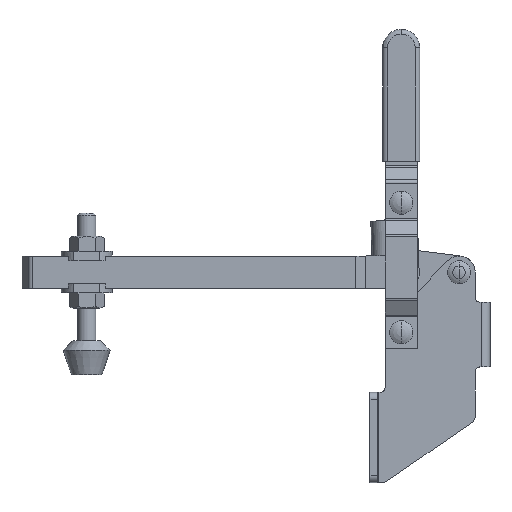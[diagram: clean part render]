
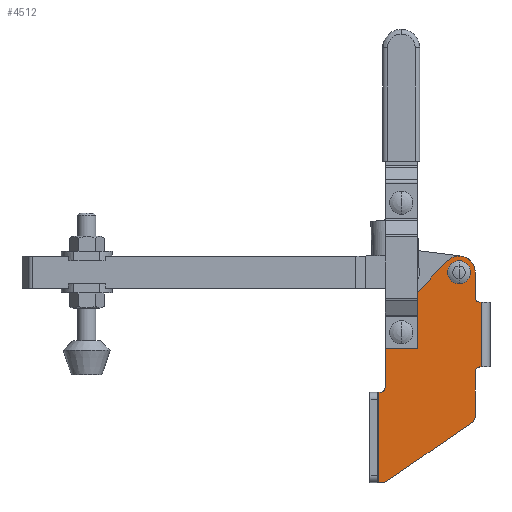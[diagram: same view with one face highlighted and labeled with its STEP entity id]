
A CAD part, front view. The second image highlights one B-rep face of the part: STEP entity #4512.
In plain terms, the highlighted planar face has unit normal (0, -1, 0).
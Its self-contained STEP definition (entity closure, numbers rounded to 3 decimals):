
#2732=CARTESIAN_POINT('Cartesian Point',(170.013,-6.4,-6.)) ;
#2735=CARTESIAN_POINT('Line Origine',(170.363,-6.4,-6.)) ;
#2739=CARTESIAN_POINT('Cartesian Point',(170.713,-6.4,-6.)) ;
#2813=CARTESIAN_POINT('Cartesian Point',(170.013,-6.4,-34.)) ;
#2883=CARTESIAN_POINT('Cartesian Point',(170.713,-6.4,-34.)) ;
#2886=CARTESIAN_POINT('Line Origine',(170.363,-6.4,-34.)) ;
#3786=CARTESIAN_POINT('Cartesian Point',(130.967,-6.4,-14.148)) ;
#3802=CARTESIAN_POINT('Cartesian Point',(129.013,-6.4,-19.)) ;
#3805=CARTESIAN_POINT('Axis2P3D Location',(136.013,-6.4,-19.)) ;
#3826=CARTESIAN_POINT('Cartesian Point',(155.967,-6.4,11.852)) ;
#3836=CARTESIAN_POINT('Line Origine',(143.467,-6.4,-1.148)) ;
#3857=CARTESIAN_POINT('Cartesian Point',(168.013,-6.4,7.)) ;
#3867=CARTESIAN_POINT('Axis2P3D Location',(161.013,-6.4,7.)) ;
#3888=CARTESIAN_POINT('Cartesian Point',(168.013,-6.4,-4.)) ;
#3898=CARTESIAN_POINT('Line Origine',(168.013,-6.4,1.5)) ;
#3920=CARTESIAN_POINT('Axis2P3D Location',(170.013,-6.4,-4.)) ;
#3941=CARTESIAN_POINT('Cartesian Point',(168.013,-6.4,-36.)) ;
#3951=CARTESIAN_POINT('Axis2P3D Location',(170.013,-6.4,-36.)) ;
#3972=CARTESIAN_POINT('Cartesian Point',(168.013,-6.4,-55.428)) ;
#3982=CARTESIAN_POINT('Line Origine',(168.013,-6.4,-45.714)) ;
#4003=CARTESIAN_POINT('Cartesian Point',(166.72,-6.4,-57.895)) ;
#4013=CARTESIAN_POINT('Axis2P3D Location',(165.013,-6.4,-55.428)) ;
#4034=CARTESIAN_POINT('Cartesian Point',(129.783,-6.4,-83.467)) ;
#4044=CARTESIAN_POINT('Line Origine',(148.252,-6.4,-70.681)) ;
#4065=CARTESIAN_POINT('Cartesian Point',(128.076,-6.4,-84.)) ;
#4075=CARTESIAN_POINT('Axis2P3D Location',(128.076,-6.4,-81.)) ;
#4120=CARTESIAN_POINT('Line Origine',(127.144,-6.4,-84.)) ;
#4124=CARTESIAN_POINT('Cartesian Point',(126.213,-6.4,-84.)) ;
#4247=CARTESIAN_POINT('Cartesian Point',(126.213,-6.4,-45.)) ;
#4250=CARTESIAN_POINT('Line Origine',(126.613,-6.4,-45.)) ;
#4254=CARTESIAN_POINT('Cartesian Point',(127.013,-6.4,-45.)) ;
#4296=CARTESIAN_POINT('Cartesian Point',(129.013,-6.4,-43.)) ;
#4306=CARTESIAN_POINT('Axis2P3D Location',(127.013,-6.4,-43.)) ;
#4328=CARTESIAN_POINT('Line Origine',(129.013,-6.4,-31.)) ;
#4434=CARTESIAN_POINT('Line Origine',(126.213,-6.4,-9.)) ;
#4446=CARTESIAN_POINT('Axis2P3D Location',(170.713,-6.4,66.)) ;
#4451=CARTESIAN_POINT('Line Origine',(170.713,-6.4,-20.)) ;
#4476=CARTESIAN_POINT('Axis2P3D Location',(136.013,-6.4,-19.)) ;
#4480=CARTESIAN_POINT('Cartesian Point',(136.013,-6.4,-15.8)) ;
#4482=CARTESIAN_POINT('Cartesian Point',(136.013,-6.4,-22.2)) ;
#4485=CARTESIAN_POINT('Axis2P3D Location',(136.013,-6.4,-19.)) ;
#4494=CARTESIAN_POINT('Axis2P3D Location',(161.013,-6.4,7.)) ;
#4498=CARTESIAN_POINT('Cartesian Point',(161.013,-6.4,10.2)) ;
#4500=CARTESIAN_POINT('Cartesian Point',(161.013,-6.4,3.8)) ;
#4503=CARTESIAN_POINT('Axis2P3D Location',(161.013,-6.4,7.)) ;
#2736=DIRECTION('Vector Direction',(1.,0.,0.)) ;
#2887=DIRECTION('Vector Direction',(1.,0.,0.)) ;
#3806=DIRECTION('Axis2P3D Direction',(0.,-1.,0.)) ;
#3837=DIRECTION('Vector Direction',(0.693,0.,0.721)) ;
#3868=DIRECTION('Axis2P3D Direction',(0.,-1.,0.)) ;
#3899=DIRECTION('Vector Direction',(0.,0.,1.)) ;
#3921=DIRECTION('Axis2P3D Direction',(0.,-1.,0.)) ;
#3952=DIRECTION('Axis2P3D Direction',(0.,-1.,0.)) ;
#3983=DIRECTION('Vector Direction',(0.,0.,1.)) ;
#4014=DIRECTION('Axis2P3D Direction',(0.,-1.,0.)) ;
#4045=DIRECTION('Vector Direction',(0.822,0.,0.569)) ;
#4076=DIRECTION('Axis2P3D Direction',(0.,-1.,0.)) ;
#4121=DIRECTION('Vector Direction',(1.,0.,0.)) ;
#4251=DIRECTION('Vector Direction',(1.,0.,0.)) ;
#4307=DIRECTION('Axis2P3D Direction',(0.,-1.,0.)) ;
#4329=DIRECTION('Vector Direction',(0.,0.,1.)) ;
#4435=DIRECTION('Vector Direction',(0.,0.,1.)) ;
#4447=DIRECTION('Axis2P3D Direction',(0.,-1.,0.)) ;
#4448=DIRECTION('Axis2P3D XDirection',(0.,0.,1.)) ;
#4452=DIRECTION('Vector Direction',(0.,0.,-1.)) ;
#4477=DIRECTION('Axis2P3D Direction',(0.,-1.,0.)) ;
#4486=DIRECTION('Axis2P3D Direction',(0.,-1.,0.)) ;
#4495=DIRECTION('Axis2P3D Direction',(0.,-1.,0.)) ;
#4504=DIRECTION('Axis2P3D Direction',(0.,-1.,0.)) ;
#3807=AXIS2_PLACEMENT_3D('Circle Axis2P3D',#3805,#3806,$) ;
#3869=AXIS2_PLACEMENT_3D('Circle Axis2P3D',#3867,#3868,$) ;
#3922=AXIS2_PLACEMENT_3D('Circle Axis2P3D',#3920,#3921,$) ;
#3953=AXIS2_PLACEMENT_3D('Circle Axis2P3D',#3951,#3952,$) ;
#4015=AXIS2_PLACEMENT_3D('Circle Axis2P3D',#4013,#4014,$) ;
#4077=AXIS2_PLACEMENT_3D('Circle Axis2P3D',#4075,#4076,$) ;
#4308=AXIS2_PLACEMENT_3D('Circle Axis2P3D',#4306,#4307,$) ;
#4449=AXIS2_PLACEMENT_3D('Plane Axis2P3D',#4446,#4447,#4448) ;
#4478=AXIS2_PLACEMENT_3D('Circle Axis2P3D',#4476,#4477,$) ;
#4487=AXIS2_PLACEMENT_3D('Circle Axis2P3D',#4485,#4486,$) ;
#4496=AXIS2_PLACEMENT_3D('Circle Axis2P3D',#4494,#4495,$) ;
#4505=AXIS2_PLACEMENT_3D('Circle Axis2P3D',#4503,#4504,$) ;
#4457=ORIENTED_EDGE('Oriented Edge',*,*,#4438,.T.) ;
#4458=ORIENTED_EDGE('Oriented Edge',*,*,#4126,.T.) ;
#4459=ORIENTED_EDGE('Oriented Edge',*,*,#4079,.T.) ;
#4460=ORIENTED_EDGE('Oriented Edge',*,*,#4048,.T.) ;
#4461=ORIENTED_EDGE('Oriented Edge',*,*,#4017,.T.) ;
#4462=ORIENTED_EDGE('Oriented Edge',*,*,#3986,.T.) ;
#4463=ORIENTED_EDGE('Oriented Edge',*,*,#3955,.F.) ;
#4464=ORIENTED_EDGE('Oriented Edge',*,*,#2890,.T.) ;
#4465=ORIENTED_EDGE('Oriented Edge',*,*,#4455,.F.) ;
#4466=ORIENTED_EDGE('Oriented Edge',*,*,#2741,.F.) ;
#4467=ORIENTED_EDGE('Oriented Edge',*,*,#3924,.F.) ;
#4468=ORIENTED_EDGE('Oriented Edge',*,*,#3902,.T.) ;
#4469=ORIENTED_EDGE('Oriented Edge',*,*,#3871,.T.) ;
#4470=ORIENTED_EDGE('Oriented Edge',*,*,#3840,.F.) ;
#4471=ORIENTED_EDGE('Oriented Edge',*,*,#3809,.T.) ;
#4472=ORIENTED_EDGE('Oriented Edge',*,*,#4332,.F.) ;
#4473=ORIENTED_EDGE('Oriented Edge',*,*,#4310,.F.) ;
#4474=ORIENTED_EDGE('Oriented Edge',*,*,#4256,.F.) ;
#4491=ORIENTED_EDGE('Oriented Edge',*,*,#4484,.F.) ;
#4492=ORIENTED_EDGE('Oriented Edge',*,*,#4489,.F.) ;
#4509=ORIENTED_EDGE('Oriented Edge',*,*,#4502,.F.) ;
#4510=ORIENTED_EDGE('Oriented Edge',*,*,#4507,.F.) ;
#4493=FACE_BOUND('Face Bound',#4490,.T.) ;
#4511=FACE_BOUND('Face Bound',#4508,.T.) ;
#2737=VECTOR('Line Direction',#2736,1.) ;
#2888=VECTOR('Line Direction',#2887,1.) ;
#3838=VECTOR('Line Direction',#3837,1.) ;
#3900=VECTOR('Line Direction',#3899,1.) ;
#3984=VECTOR('Line Direction',#3983,1.) ;
#4046=VECTOR('Line Direction',#4045,1.) ;
#4122=VECTOR('Line Direction',#4121,1.) ;
#4252=VECTOR('Line Direction',#4251,1.) ;
#4330=VECTOR('Line Direction',#4329,1.) ;
#4436=VECTOR('Line Direction',#4435,1.) ;
#4453=VECTOR('Line Direction',#4452,1.) ;
#4512=ADVANCED_FACE('',(#4475,#4493,#4511),#4450,.T.) ;
#3808=CIRCLE('generated circle',#3807,7.) ;
#3870=CIRCLE('generated circle',#3869,7.) ;
#3923=CIRCLE('generated circle',#3922,2.) ;
#3954=CIRCLE('generated circle',#3953,2.) ;
#4016=CIRCLE('generated circle',#4015,3.) ;
#4078=CIRCLE('generated circle',#4077,3.) ;
#4309=CIRCLE('generated circle',#4308,2.) ;
#4479=CIRCLE('generated circle',#4478,3.2) ;
#4488=CIRCLE('generated circle',#4487,3.2) ;
#4497=CIRCLE('generated circle',#4496,3.2) ;
#4506=CIRCLE('generated circle',#4505,3.2) ;
#2741=EDGE_CURVE('',#2733,#2740,#2738,.T.) ;
#2890=EDGE_CURVE('',#2814,#2884,#2889,.T.) ;
#3809=EDGE_CURVE('',#3787,#3803,#3808,.T.) ;
#3840=EDGE_CURVE('',#3787,#3827,#3839,.T.) ;
#3871=EDGE_CURVE('',#3858,#3827,#3870,.T.) ;
#3902=EDGE_CURVE('',#3889,#3858,#3901,.T.) ;
#3924=EDGE_CURVE('',#3889,#2733,#3923,.T.) ;
#3955=EDGE_CURVE('',#2814,#3942,#3954,.T.) ;
#3986=EDGE_CURVE('',#3973,#3942,#3985,.T.) ;
#4017=EDGE_CURVE('',#4004,#3973,#4016,.T.) ;
#4048=EDGE_CURVE('',#4035,#4004,#4047,.T.) ;
#4079=EDGE_CURVE('',#4066,#4035,#4078,.T.) ;
#4126=EDGE_CURVE('',#4125,#4066,#4123,.T.) ;
#4256=EDGE_CURVE('',#4248,#4255,#4253,.T.) ;
#4310=EDGE_CURVE('',#4255,#4297,#4309,.T.) ;
#4332=EDGE_CURVE('',#4297,#3803,#4331,.T.) ;
#4438=EDGE_CURVE('',#4248,#4125,#4437,.F.) ;
#4455=EDGE_CURVE('',#2740,#2884,#4454,.T.) ;
#4484=EDGE_CURVE('',#4481,#4483,#4479,.T.) ;
#4489=EDGE_CURVE('',#4483,#4481,#4488,.T.) ;
#4502=EDGE_CURVE('',#4499,#4501,#4497,.T.) ;
#4507=EDGE_CURVE('',#4501,#4499,#4506,.T.) ;
#4456=EDGE_LOOP('Oriented Loop',(#4457,#4458,#4459,#4460,#4461,#4462,#4463,#4464,#4465,#4466,#4467,#4468,#4469,#4470,#4471,#4472,#4473,#4474)) ;
#4490=EDGE_LOOP('Oriented Loop',(#4491,#4492)) ;
#4508=EDGE_LOOP('Oriented Loop',(#4509,#4510)) ;
#4475=FACE_OUTER_BOUND('Face Bound',#4456,.T.) ;
#2738=LINE('Line',#2735,#2737) ;
#2889=LINE('Line',#2886,#2888) ;
#3839=LINE('Line',#3836,#3838) ;
#3901=LINE('Line',#3898,#3900) ;
#3985=LINE('Line',#3982,#3984) ;
#4047=LINE('Line',#4044,#4046) ;
#4123=LINE('Line',#4120,#4122) ;
#4253=LINE('Line',#4250,#4252) ;
#4331=LINE('Line',#4328,#4330) ;
#4437=LINE('Line',#4434,#4436) ;
#4454=LINE('Line',#4451,#4453) ;
#4450=PLANE('Plane',#4449) ;
#2733=VERTEX_POINT('Vertex Point',#2732) ;
#2740=VERTEX_POINT('Vertex Point',#2739) ;
#2814=VERTEX_POINT('Vertex Point',#2813) ;
#2884=VERTEX_POINT('Vertex Point',#2883) ;
#3787=VERTEX_POINT('Vertex Point',#3786) ;
#3803=VERTEX_POINT('Vertex Point',#3802) ;
#3827=VERTEX_POINT('Vertex Point',#3826) ;
#3858=VERTEX_POINT('Vertex Point',#3857) ;
#3889=VERTEX_POINT('Vertex Point',#3888) ;
#3942=VERTEX_POINT('Vertex Point',#3941) ;
#3973=VERTEX_POINT('Vertex Point',#3972) ;
#4004=VERTEX_POINT('Vertex Point',#4003) ;
#4035=VERTEX_POINT('Vertex Point',#4034) ;
#4066=VERTEX_POINT('Vertex Point',#4065) ;
#4125=VERTEX_POINT('Vertex Point',#4124) ;
#4248=VERTEX_POINT('Vertex Point',#4247) ;
#4255=VERTEX_POINT('Vertex Point',#4254) ;
#4297=VERTEX_POINT('Vertex Point',#4296) ;
#4481=VERTEX_POINT('Vertex Point',#4480) ;
#4483=VERTEX_POINT('Vertex Point',#4482) ;
#4499=VERTEX_POINT('Vertex Point',#4498) ;
#4501=VERTEX_POINT('Vertex Point',#4500) ;
